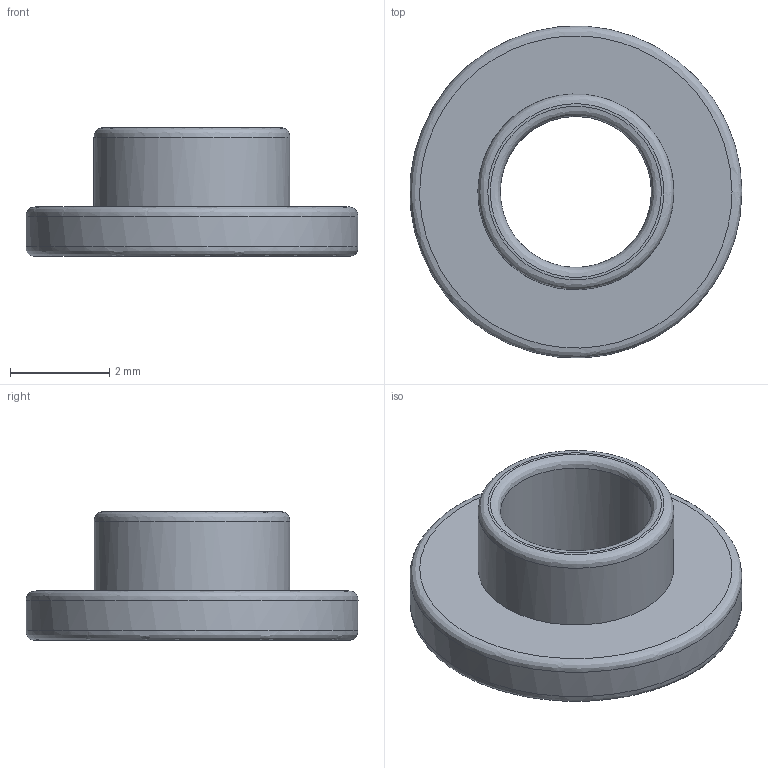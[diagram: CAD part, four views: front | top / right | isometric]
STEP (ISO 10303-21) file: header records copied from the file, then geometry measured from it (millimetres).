
FILE_DESCRIPTION(('STEP AP242 Edition 2','STEP AP242 Edition 2''CAx-IF Rec.Pracs.---Representation and Presentation of Product Manufacturing Information (PMI)---4.0---2014-10-13','STEP AP242 Edition 2''CAx-IF Rec.Pracs.---Representation and Presentation of Product Manufacturing Information (PMI)---4.0---2014-10-13''CAx-IF Rec.Pracs.---3D Tessellated Geometry---0.4---2014-09-14','STEP AP242 Edition 2''CAx-IF Rec.Pracs.---Representation and Presentation of Product Manufacturing Information (PMI)---4.0---2014-10-13''CAx-IF Rec.Pracs.---3D Tessellated Geometry---0.4---2014-09-14''2;1','STEP AP242 Edition 2''CAx-IF Rec.Pracs.---Representation and Presentation of Product Manufacturing Information (PMI)---4.0---2014-10-13''CAx-IF Rec.Pracs.---3D Tessellated Geometry---0.4---2014-09-14''2;1''CAx-IF Rec.Pracs.---User Defined Attributes---1.5---2016-08-15'),'2;1');
FILE_NAME('/vol/tmp/translate-11221957483556206852/Part Studio 1 (TW147) - screwGasket 147WG (round).step','2026-03-10T09:28:51',(''),(''),'ST-DEVELOPER v20','ONSHAPE BY PTC INC, 1.211',' ');
FILE_SCHEMA(('AP242_MANAGED_MODEL_BASED_3D_ENGINEERING_MIM_LF { 1 0 10303 442 3 1 4 }'));
Length unit declared in the file: metre
Products named in the file (1): screwGasket 147WG (round)
Bounding box: 6.69 x 6.7 x 2.6 mm (x, y, z)
Volume: 35.4 mm3; surface area: 116.8 mm2
Topology: 1 solids, 1 shells, 10 faces, 17 edges, 10 vertices
Faces by surface type: bspline 4, cylinder 3, plane 3
Full cylindrical faces by diameter (mm): 3.05 x1, 3.95 x1, 6.7 x1
Entity records: 518 total; most frequent: CARTESIAN_POINT 355, ORIENTED_EDGE 20, EDGE_LOOP 20, FACE_BOUND 20, DIRECTION 18, EDGE_CURVE 10, VERTEX_POINT 10, ADVANCED_FACE 10
